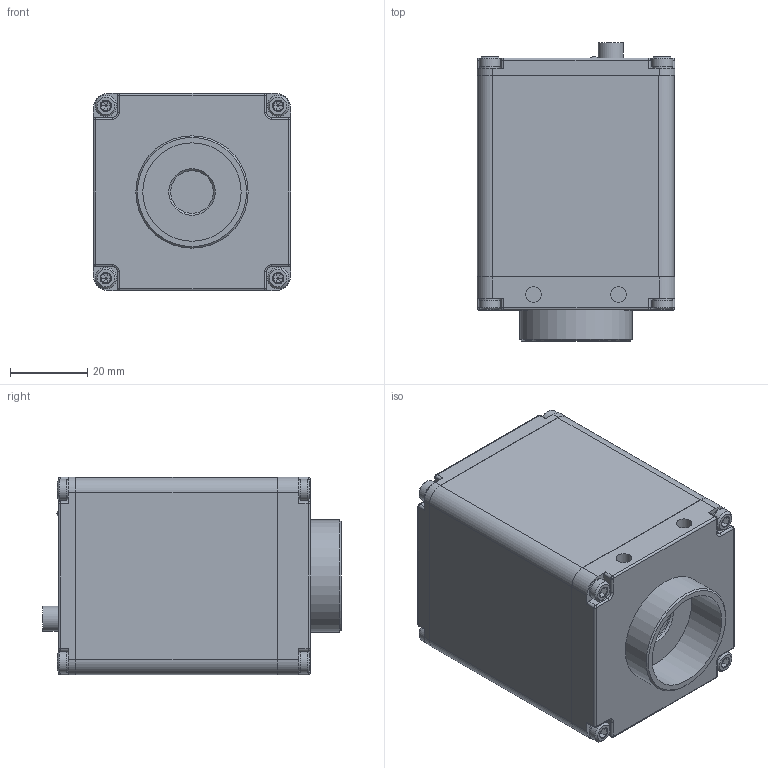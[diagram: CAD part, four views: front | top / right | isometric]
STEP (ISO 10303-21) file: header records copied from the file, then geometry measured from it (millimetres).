
FILE_DESCRIPTION(('STEP AP214'),'1');
FILE_NAME('BA200HD.stp','2026-04-07T03:20:49',(' '),(' '),'Spatial InterOp 3D',' ',' ');
FILE_SCHEMA(('AUTOMOTIVE_DESIGN { 1 0 10303 214 1 1 1 1 }'));
Length unit declared in the file: metre
Products named in the file (2): BA200HD; Component1
Assembly tree (1 placements, depth 2):
  BA200HD
    Component1
Bounding box: 51 x 77 x 51 mm (x, y, z)
Volume: 166054.7 mm3; surface area: 22002.2 mm2
Topology: 1 solids, 1 shells, 406 faces, 946 edges, 593 vertices
Faces by surface type: plane 235, cylinder 125, cone 20, bspline 16, torus 8, sphere 2
Full cylindrical faces by diameter (mm): 2.1 x1, 2.6 x1, 4 x4, 5 x8, 5.5 x8, 5.9 x1, 6.5 x1, 11 x1, 25.4 x1, 29 x1
Entity records: 18866 total; most frequent: CARTESIAN_POINT 2094, DIRECTION 1962, ORIENTED_EDGE 1750, STYLED_ITEM 1280, PRESENTATION_STYLE_ASSIGNMENT 1280, COLOUR_RGB 1280, EDGE_CURVE 875, CURVE_STYLE 873
